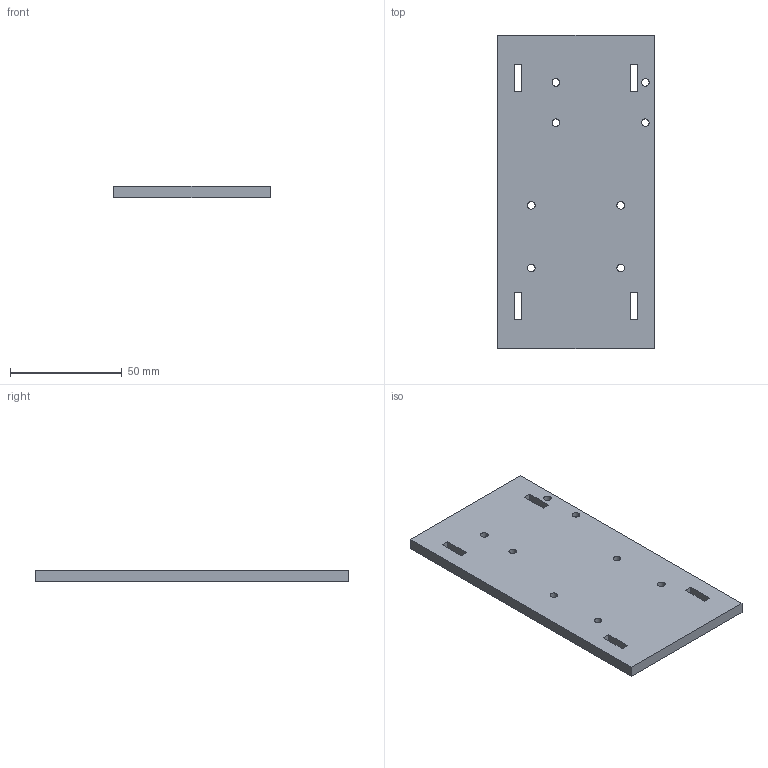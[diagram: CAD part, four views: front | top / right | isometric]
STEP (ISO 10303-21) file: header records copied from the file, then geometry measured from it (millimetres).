
FILE_DESCRIPTION (( 'STEP AP203' ), '1' );
FILE_NAME ('V2_01_base.STEP', '2026-09-18T10:16:50', ( '15300530775@163.com' ), ( '' ), 'SwSTEP 2.0', 'SolidWorks 2026', '' );
FILE_SCHEMA (( 'CONFIG_CONTROL_DESIGN' ));
Length unit declared in the file: millimetre
Products named in the file (1): V2_01_base
Bounding box: 70 x 140 x 5 mm (x, y, z)
Volume: 47820.8 mm3; surface area: 22271.6 mm2
Topology: 1 solids, 1 shells, 38 faces, 108 edges, 72 vertices
Faces by surface type: plane 22, cylinder 16
Entity records: 1593 total; most frequent: CARTESIAN_POINT 491, ORIENTED_EDGE 216, DIRECTION 186, EDGE_CURVE 108, LINE 76, VECTOR 76, VERTEX_POINT 72, EDGE_LOOP 62
